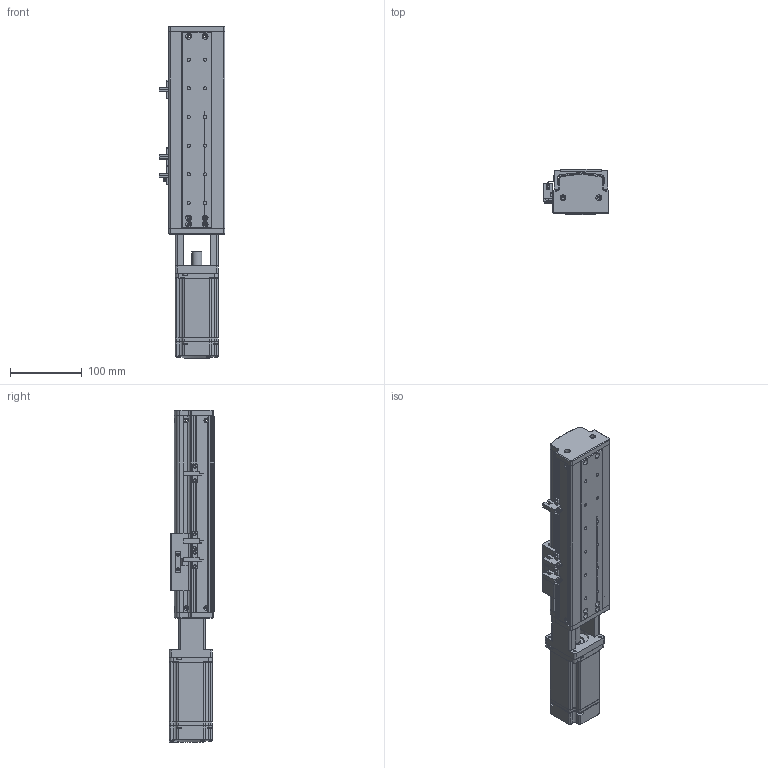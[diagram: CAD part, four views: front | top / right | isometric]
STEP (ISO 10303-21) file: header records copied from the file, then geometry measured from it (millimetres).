
FILE_DESCRIPTION (( 'STEP AP214' ), '1' );
FILE_NAME ('KSD75S-S120-MT-CM.STEP', '2019-10-18T07:29:10', ( '微软用户' ), ( '微软中国' ), 'SwSTEP 2.0', 'SolidWorks 2014', '' );
FILE_SCHEMA (( 'AUTOMOTIVE_DESIGN' ));
Length unit declared in the file: millimetre
Products named in the file (12): 75遵耀郪耜啣-120俴最; 75遵賑雄釱; MGW15H賑寢120俴最 ; MGW15H賑寢120俴最; KSD75S-S120-MT-CM; MHMD042G1CA_2_03; 覜茼え100遵圉猾敕; U倰嫖萇EEㄜSX672; 綴傷啣 ; 100遵鎮湛假蚾啣1 ; ヶ傷啣; 75裔啣-120俴最
Assembly tree (14 placements, depth 3):
  KSD75S-S120-MT-CM
    MGW15H賑寢120俴最 
      MGW15H賑寢120俴最
    75遵賑雄釱
    75遵耀郪耜啣-120俴最  x2
    75裔啣-120俴最
    ヶ傷啣
    100遵鎮湛假蚾啣1 
    綴傷啣 
    U倰嫖萇EEㄜSX672  x3
    覜茼え100遵圉猾敕
    MHMD042G1CA_2_03
Bounding box: 91.7 x 63 x 463.5 mm (x, y, z)
Volume: 507252.8 mm3; surface area: 314217 mm2
Topology: 12 solids, 13 shells, 1336 faces, 3813 edges, 2483 vertices
Faces by surface type: cylinder 604, plane 585, cone 129, bspline 18
Entity records: 43048 total; most frequent: CARTESIAN_POINT 8247, DIRECTION 6253, ORIENTED_EDGE 5906, EDGE_CURVE 3024, AXIS2_PLACEMENT_3D 2268, VERTEX_POINT 2001, LINE 1717, VECTOR 1717
